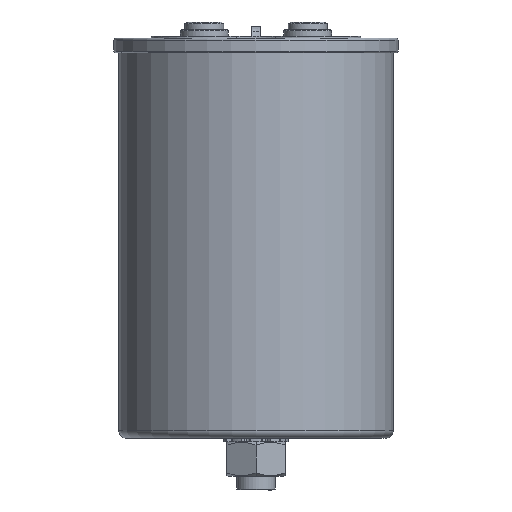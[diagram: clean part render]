
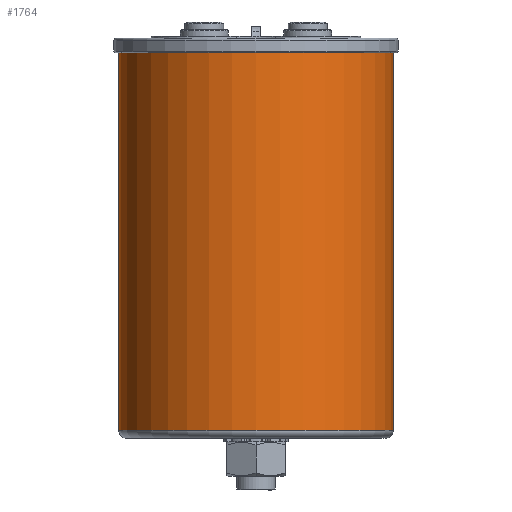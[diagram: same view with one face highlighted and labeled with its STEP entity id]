
A CAD part, left-side view. The second image highlights one B-rep face of the part: STEP entity #1764.
In plain terms, the highlighted cylindrical face has radius 42.5 mm (diameter 85 mm), a partial arc.
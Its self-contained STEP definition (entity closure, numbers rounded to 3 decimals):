
#22 = DIRECTION ( 'NONE',  ( 0., 1., 0. ) ) ;
#185 = DIRECTION ( 'NONE',  ( 0., 0., 1. ) ) ;
#947 = DIRECTION ( 'NONE',  ( 0., 0., -1. ) ) ;
#1247 = ORIENTED_EDGE ( 'NONE', *, *, #3494, .T. ) ;
#1395 = VERTEX_POINT ( 'NONE', #12609 ) ;
#1764 = ADVANCED_FACE ( 'NONE', ( #4996 ), #9193, .T. ) ;
#1955 = DIRECTION ( 'NONE',  ( 0., 0., -1. ) ) ;
#2052 = DIRECTION ( 'NONE',  ( 0., -1., 0. ) ) ;
#2174 = CARTESIAN_POINT ( 'NONE',  ( 0., -42.5, -117.5 ) ) ;
#2658 = CIRCLE ( 'NONE', #5019, 42.5 ) ;
#3494 = EDGE_CURVE ( 'NONE', #8802, #6522, #13611, .T. ) ;
#4392 = CARTESIAN_POINT ( 'NONE',  ( 0., 42.5, -120. ) ) ;
#4843 = ORIENTED_EDGE ( 'NONE', *, *, #14352, .F. ) ;
#4996 = FACE_OUTER_BOUND ( 'NONE', #13196, .T. ) ;
#5019 = AXIS2_PLACEMENT_3D ( 'NONE', #9097, #14746, #2052 ) ;
#5050 = DIRECTION ( 'NONE',  ( 0., 0., -1. ) ) ;
#6091 = ORIENTED_EDGE ( 'NONE', *, *, #10165, .F. ) ;
#6522 = VERTEX_POINT ( 'NONE', #12847 ) ;
#6543 = VECTOR ( 'NONE', #947, 1000. ) ;
#6923 = EDGE_CURVE ( 'NONE', #6522, #9368, #2658, .T. ) ;
#7396 = CARTESIAN_POINT ( 'NONE',  ( 0., -42.5, -120. ) ) ;
#7398 = AXIS2_PLACEMENT_3D ( 'NONE', #13947, #185, #22 ) ;
#7498 = CIRCLE ( 'NONE', #7398, 42.5 ) ;
#7842 = CARTESIAN_POINT ( 'NONE',  ( 0., 0., -120. ) ) ;
#8802 = VERTEX_POINT ( 'NONE', #10903 ) ;
#9097 = CARTESIAN_POINT ( 'NONE',  ( 0., 0., -117.5 ) ) ;
#9193 = CYLINDRICAL_SURFACE ( 'NONE', #14094, 42.5 ) ;
#9368 = VERTEX_POINT ( 'NONE', #2174 ) ;
#10165 = EDGE_CURVE ( 'NONE', #1395, #9368, #14926, .T. ) ;
#10903 = CARTESIAN_POINT ( 'NONE',  ( 0., 42.5, 0. ) ) ;
#11496 = VECTOR ( 'NONE', #5050, 1000. ) ;
#12524 = DIRECTION ( 'NONE',  ( 0., -1., 0. ) ) ;
#12609 = CARTESIAN_POINT ( 'NONE',  ( 0., -42.5, 0. ) ) ;
#12847 = CARTESIAN_POINT ( 'NONE',  ( 0., 42.5, -117.5 ) ) ;
#13045 = ORIENTED_EDGE ( 'NONE', *, *, #6923, .T. ) ;
#13196 = EDGE_LOOP ( 'NONE', ( #4843, #1247, #13045, #6091 ) ) ;
#13611 = LINE ( 'NONE', #4392, #6543 ) ;
#13947 = CARTESIAN_POINT ( 'NONE',  ( 0., 0., 0. ) ) ;
#14094 = AXIS2_PLACEMENT_3D ( 'NONE', #7842, #1955, #12524 ) ;
#14352 = EDGE_CURVE ( 'NONE', #8802, #1395, #7498, .T. ) ;
#14746 = DIRECTION ( 'NONE',  ( 0., 0., 1. ) ) ;
#14926 = LINE ( 'NONE', #7396, #11496 ) ;
